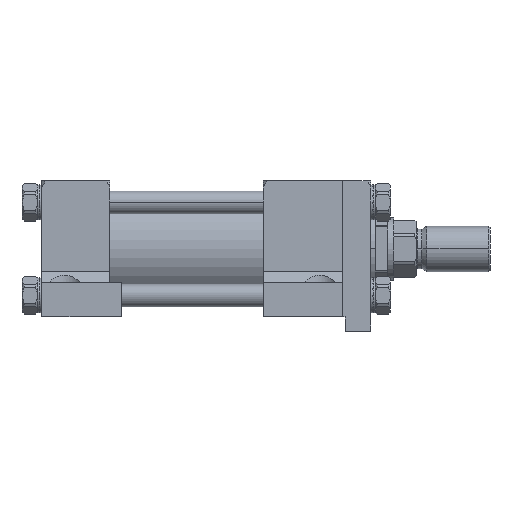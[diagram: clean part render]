
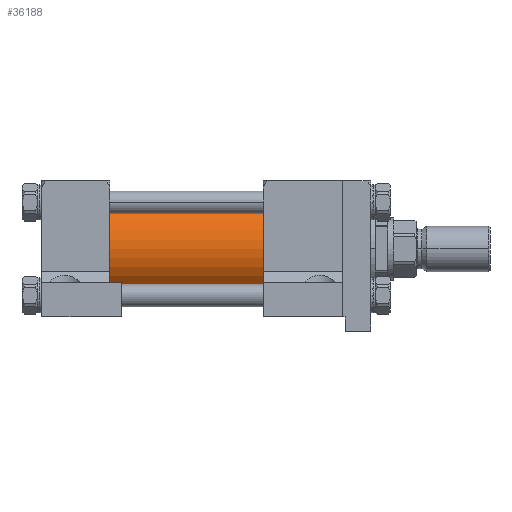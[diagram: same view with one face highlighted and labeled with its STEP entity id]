
A CAD part, front view. The second image highlights one B-rep face of the part: STEP entity #36188.
In plain terms, the highlighted cylindrical face has radius 30.163 mm (diameter 60.325 mm), a partial arc.
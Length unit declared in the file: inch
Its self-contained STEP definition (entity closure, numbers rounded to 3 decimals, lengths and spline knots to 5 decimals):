
#2707 = DIRECTION ( 'NONE',  ( 1., 0., 0. ) ) ;
#3550 = VERTEX_POINT ( 'NONE', #50950 ) ;
#5253 = AXIS2_PLACEMENT_3D ( 'NONE', #16608, #2707, #53601 ) ;
#12769 = DIRECTION ( 'NONE',  ( 1., 0., 0. ) ) ;
#13048 = ORIENTED_EDGE ( 'NONE', *, *, #34046, .T. ) ;
#16608 = CARTESIAN_POINT ( 'NONE',  ( -3.125, 0., 0. ) ) ;
#17360 = CYLINDRICAL_SURFACE ( 'NONE', #30957, 1.1875 ) ;
#19890 = LINE ( 'NONE', #47840, #37653 ) ;
#22300 = ORIENTED_EDGE ( 'NONE', *, *, #61244, .T. ) ;
#23299 = DIRECTION ( 'NONE',  ( 1., 0., 0. ) ) ;
#27019 = DIRECTION ( 'NONE',  ( 1., 0., 0. ) ) ;
#30477 = CARTESIAN_POINT ( 'NONE',  ( -7., 0., 1.1875 ) ) ;
#30752 = VECTOR ( 'NONE', #49993, 39.37008 ) ;
#30957 = AXIS2_PLACEMENT_3D ( 'NONE', #50289, #12769, #31710 ) ;
#31683 = CARTESIAN_POINT ( 'NONE',  ( -7., 0., 0. ) ) ;
#31710 = DIRECTION ( 'NONE',  ( 0., 0., -1. ) ) ;
#32591 = EDGE_CURVE ( 'NONE', #41639, #3550, #35171, .T. ) ;
#34046 = EDGE_CURVE ( 'NONE', #42277, #43089, #19890, .T. ) ;
#35171 = LINE ( 'NONE', #30477, #30752 ) ;
#35647 = CIRCLE ( 'NONE', #54432, 1.1875 ) ;
#36188 = ADVANCED_FACE ( 'NONE', ( #58694 ), #17360, .T. ) ;
#36870 = CARTESIAN_POINT ( 'NONE',  ( -7., 0., -1.1875 ) ) ;
#37653 = VECTOR ( 'NONE', #23299, 39.37008 ) ;
#37945 = ORIENTED_EDGE ( 'NONE', *, *, #32591, .F. ) ;
#41639 = VERTEX_POINT ( 'NONE', #48380 ) ;
#42277 = VERTEX_POINT ( 'NONE', #36870 ) ;
#43089 = VERTEX_POINT ( 'NONE', #61210 ) ;
#45582 = DIRECTION ( 'NONE',  ( 0., 1., 0. ) ) ;
#47840 = CARTESIAN_POINT ( 'NONE',  ( -7., 0., -1.1875 ) ) ;
#48380 = CARTESIAN_POINT ( 'NONE',  ( -7., 0., 1.1875 ) ) ;
#49004 = EDGE_CURVE ( 'NONE', #3550, #43089, #50795, .T. ) ;
#49993 = DIRECTION ( 'NONE',  ( 1., 0., 0. ) ) ;
#50289 = CARTESIAN_POINT ( 'NONE',  ( -7., 0., 0. ) ) ;
#50795 = CIRCLE ( 'NONE', #5253, 1.1875 ) ;
#50950 = CARTESIAN_POINT ( 'NONE',  ( -3.125, 0., 1.1875 ) ) ;
#53173 = ORIENTED_EDGE ( 'NONE', *, *, #49004, .F. ) ;
#53601 = DIRECTION ( 'NONE',  ( 0., 1., 0. ) ) ;
#54136 = EDGE_LOOP ( 'NONE', ( #37945, #22300, #13048, #53173 ) ) ;
#54432 = AXIS2_PLACEMENT_3D ( 'NONE', #31683, #27019, #45582 ) ;
#58694 = FACE_OUTER_BOUND ( 'NONE', #54136, .T. ) ;
#61210 = CARTESIAN_POINT ( 'NONE',  ( -3.125, 0., -1.1875 ) ) ;
#61244 = EDGE_CURVE ( 'NONE', #41639, #42277, #35647, .T. ) ;
